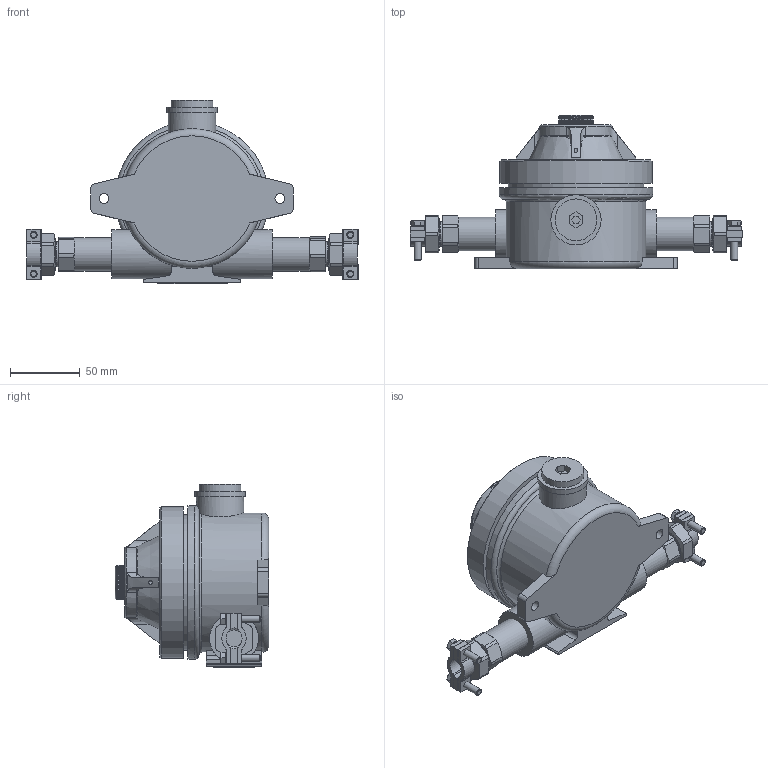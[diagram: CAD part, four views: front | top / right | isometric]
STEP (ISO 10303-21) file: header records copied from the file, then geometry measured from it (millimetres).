
FILE_DESCRIPTION(/* description */ ('','CAx-IF Rec.Pracs.---Representation and Presentation of Product Manufacturing Information (PMI)---3.8---2014-02-18'),/* implementation_level */ '2;1');
FILE_NAME(/* name */ 'C:\Users\suhorukovav\Desktop\ПОЖАРКА ДЛЯ САЙТА\НОВОЕ\ИП212-1В-А ЗАО НПК ЭТАЛОН.stp',/* time_stamp */ '2016-12-25T11:42:54+03:00',/* author */ ('suhorukovav'),/* organization */ (''),/* preprocessor_version */ 'ST-DEVELOPER v16.1',/* originating_system */ 'Autodesk Inventor 2016',/* authorisation */ '');
FILE_SCHEMA (('AP242_MANAGED_MODEL_BASED_3D_ENGINEERING_MIM_LF { 1 0 10303 442 1 1 4 }'));
Length unit declared in the file: millimetre
Products named in the file (2): Сборка9_Substitute_1; Сборка9
Assembly tree (1 placements, depth 2):
  Сборка9
    Сборка9_Substitute_1
Bounding box: 238 x 110.25 x 131.6 mm (x, y, z)
Surface area: 199846.6 mm2 (no closed solid volume)
Topology: 0 solids, 37 shells, 1469 faces, 3718 edges, 2412 vertices
Faces by surface type: plane 843, cylinder 295, bspline 197, cone 108, torus 26
Full cylindrical faces by diameter (mm): 1.2 x2, 1.3 x1, 1.5 x1, 2 x2, 2.459 x6, 3 x6, 3.6 x6, 4.134 x5, 5 x4, 5.5 x8, 7 x2, 9 x2, 11 x1, 12 x3, 12.5 x2, 13 x1, 14 x4, 15 x3, 15.5 x1, 17 x2, 17.8 x6, 18 x2, 18.376 x4, 20 x7, 20.7 x1, 24 x3, 27 x1, 30 x1, 34 x1, 35 x2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
Entity records: 46830 total; most frequent: CARTESIAN_POINT 13031, ORIENTED_EDGE 6968, DIRECTION 5778, EDGE_CURVE 3484, VERTEX_POINT 2362, AXIS2_PLACEMENT_3D 1938, LINE 1902, VECTOR 1902
